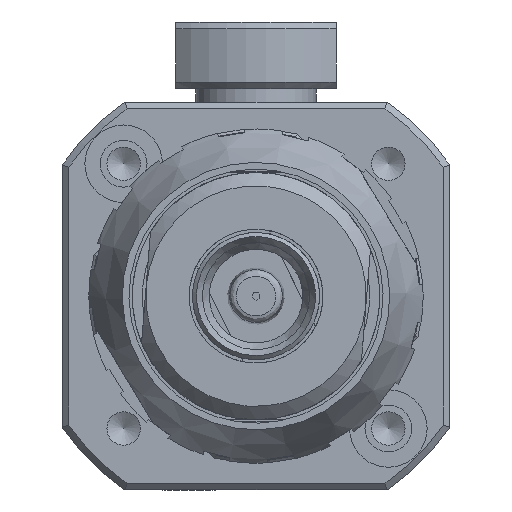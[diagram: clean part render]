
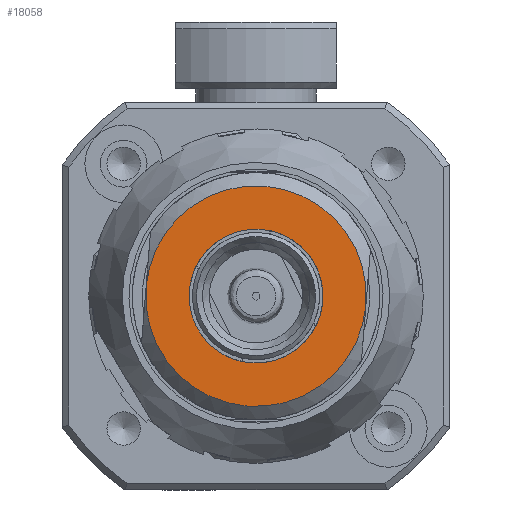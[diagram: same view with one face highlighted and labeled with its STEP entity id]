
A CAD part, front view. The second image highlights one B-rep face of the part: STEP entity #18058.
In plain terms, the highlighted planar face has unit normal (0, -1, 0).
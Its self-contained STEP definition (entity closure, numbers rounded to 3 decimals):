
#1508 = VERTEX_POINT ( 'NONE', #6964 ) ;
#2079 = EDGE_CURVE ( 'NONE', #1508, #39081, #41964, .T. ) ;
#2640 = PLANE ( 'NONE',  #13221 ) ;
#3912 = DIRECTION ( 'NONE',  ( 0., 1., 0. ) ) ;
#6964 = CARTESIAN_POINT ( 'NONE',  ( -25.368, -161.962, 999.161 ) ) ;
#7420 = CARTESIAN_POINT ( 'NONE',  ( -17.144, -161.962, 998.499 ) ) ;
#8300 = EDGE_LOOP ( 'NONE', ( #46435 ) ) ;
#9447 = DIRECTION ( 'NONE',  ( 0., 1., 0. ) ) ;
#10840 = CARTESIAN_POINT ( 'NONE',  ( -8.921, -161.962, 997.836 ) ) ;
#11195 = CARTESIAN_POINT ( 'NONE',  ( -17.144, -161.962, 998.499 ) ) ;
#13221 = AXIS2_PLACEMENT_3D ( 'NONE', #13940, #9447, #28964 ) ;
#13940 = CARTESIAN_POINT ( 'NONE',  ( -17.385, -161.962, 995.508 ) ) ;
#16147 = ORIENTED_EDGE ( 'NONE', *, *, #2079, .F. ) ;
#17648 = CARTESIAN_POINT ( 'NONE',  ( -17.144, -161.962, 998.499 ) ) ;
#18058 = ADVANCED_FACE ( 'NONE', ( #24714, #36002 ), #2640, .F. ) ;
#21156 = DIRECTION ( 'NONE',  ( -0.997, 0., 0.08 ) ) ;
#22721 = DIRECTION ( 'NONE',  ( 0., 1., 0. ) ) ;
#23272 = AXIS2_PLACEMENT_3D ( 'NONE', #7420, #22721, #38014 ) ;
#24714 = FACE_OUTER_BOUND ( 'NONE', #45436, .T. ) ;
#25593 = EDGE_CURVE ( 'NONE', #39081, #1508, #41676, .T. ) ;
#28964 = DIRECTION ( 'NONE',  ( 0.997, 0., -0.08 ) ) ;
#29957 = AXIS2_PLACEMENT_3D ( 'NONE', #11195, #3912, #41770 ) ;
#36002 = FACE_BOUND ( 'NONE', #8300, .T. ) ;
#37992 = ORIENTED_EDGE ( 'NONE', *, *, #25593, .F. ) ;
#38014 = DIRECTION ( 'NONE',  ( 0.997, 0., -0.08 ) ) ;
#39081 = VERTEX_POINT ( 'NONE', #10840 ) ;
#40211 = DIRECTION ( 'NONE',  ( 0., -1., 0. ) ) ;
#40288 = VERTEX_POINT ( 'NONE', #45263 ) ;
#41676 = CIRCLE ( 'NONE', #23272, 8.25 ) ;
#41770 = DIRECTION ( 'NONE',  ( 0.997, 0., -0.08 ) ) ;
#41964 = CIRCLE ( 'NONE', #29957, 8.25 ) ;
#42696 = CIRCLE ( 'NONE', #47503, 3. ) ;
#45263 = CARTESIAN_POINT ( 'NONE',  ( -20.135, -161.962, 998.739 ) ) ;
#45436 = EDGE_LOOP ( 'NONE', ( #16147, #37992 ) ) ;
#46435 = ORIENTED_EDGE ( 'NONE', *, *, #48133, .F. ) ;
#47503 = AXIS2_PLACEMENT_3D ( 'NONE', #17648, #40211, #21156 ) ;
#48133 = EDGE_CURVE ( 'NONE', #40288, #40288, #42696, .T. ) ;
